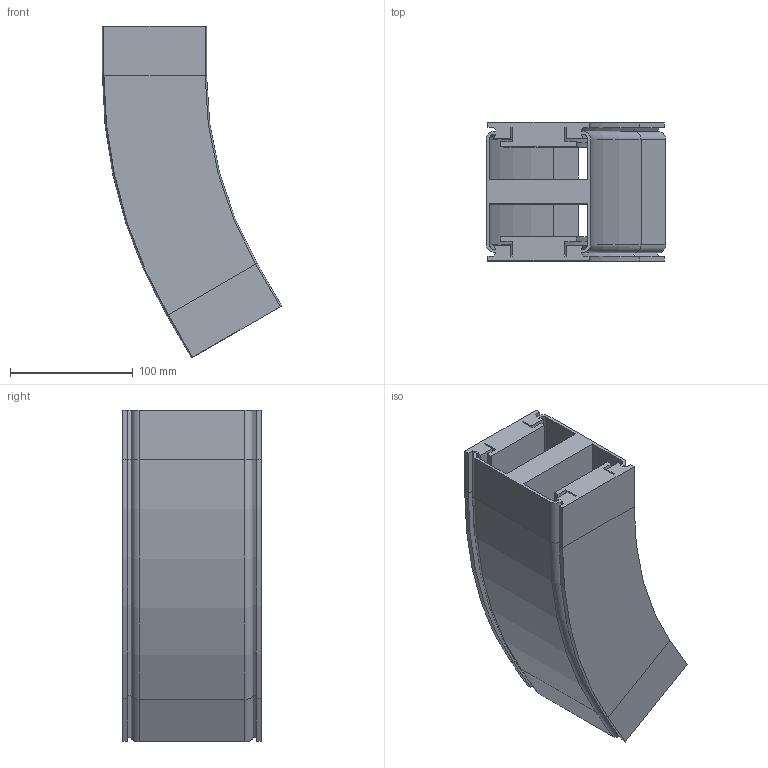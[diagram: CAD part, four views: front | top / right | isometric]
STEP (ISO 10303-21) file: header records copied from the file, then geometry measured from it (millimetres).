
FILE_DESCRIPTION (( 'STEP AP214' ), '1' );
FILE_NAME ('VC.85 Horizontale bochtsectie R350 30°.STEP', '2016-10-19T07:02:23', ( '' ), ( '' ), 'SwSTEP 2.0', 'SolidWorks 2016', '' );
FILE_SCHEMA (( 'AUTOMOTIVE_DESIGN' ));
Length unit declared in the file: millimetre
Products named in the file (1): VC.85 Horizontale bochtsectie R350 30°
Bounding box: 146.2 x 113 x 270.89 mm (x, y, z)
Volume: 1254992.6 mm3; surface area: 296146.7 mm2
Topology: 1 solids, 1 shells, 206 faces, 476 edges, 272 vertices
Faces by surface type: plane 152, cylinder 38, cone 8, torus 8
Entity records: 5674 total; most frequent: DIRECTION 990, CARTESIAN_POINT 955, ORIENTED_EDGE 952, EDGE_CURVE 476, LINE 376, VECTOR 376, AXIS2_PLACEMENT_3D 307, VERTEX_POINT 272
